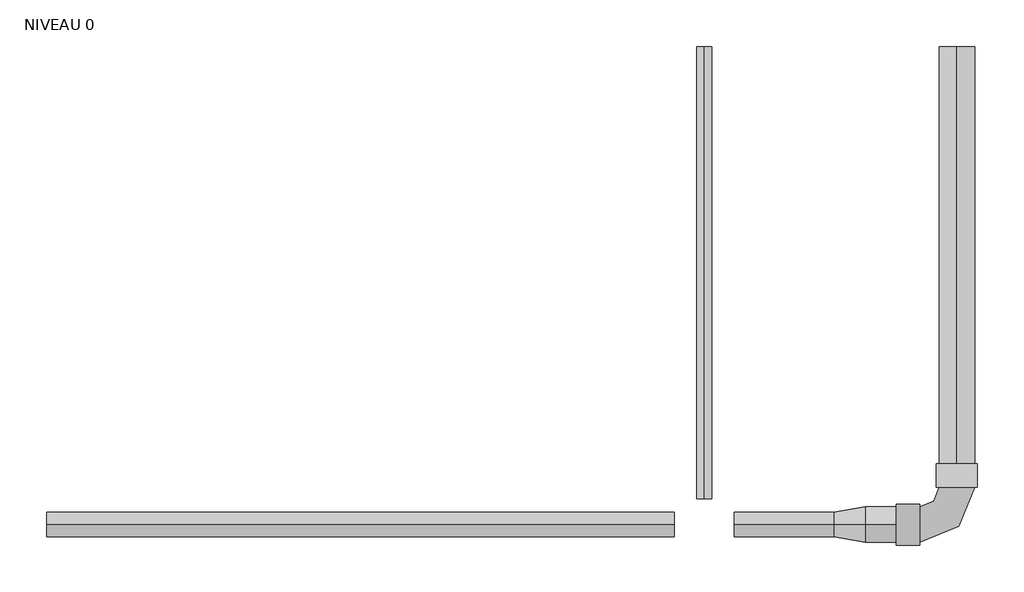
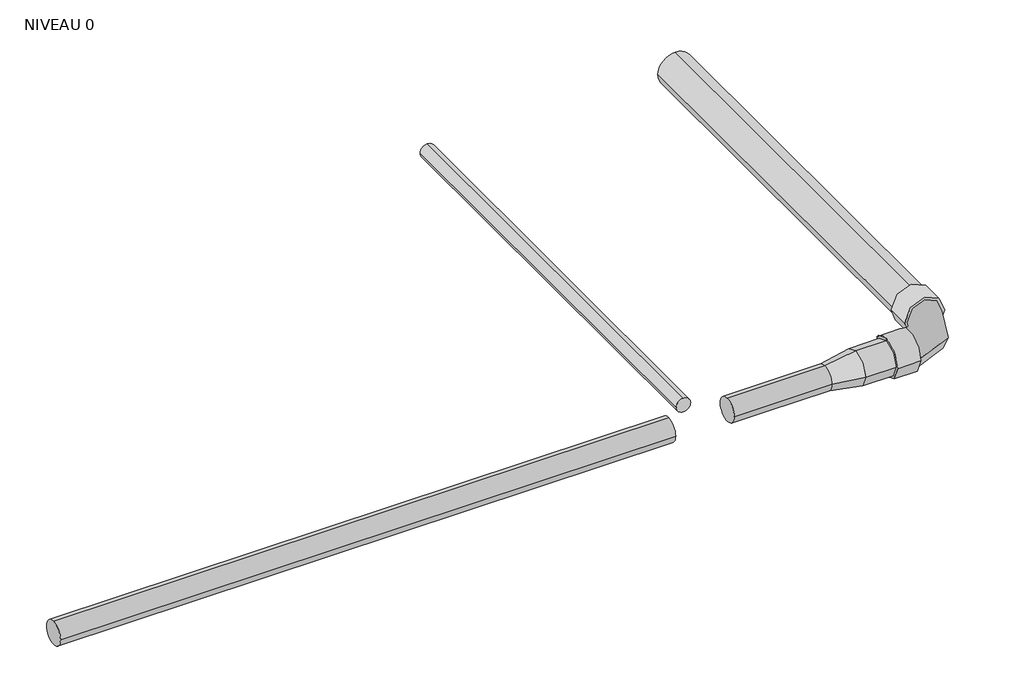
# One storey, incomplete: 5 pipe segments, 2 pipe fittings.
"""IFC4 building model written with IfcOpenShell, lengths in millimetres."""

from ifc_helpers import new_model, si_unit, point, frame, frame_2d, origin, place, context, project, spatial, circle_curve, trimmed, segment, composite_curve, outline, extrude, transform, mapped, element, save
from components import pipe_fitting_a8782d3a, coude_acier_inox_8707cc99

model = new_model("IFC4")

# Units and contexts
model_context = context("Model", 3, world=origin())
ifc_project = project(units=[si_unit("LENGTHUNIT", "METRE", prefix="MILLI")], contexts=[model_context])

# Site, building, storey
site = spatial("IfcSite", under=ifc_project)
building = spatial("IfcBuilding", under=site)
storey = spatial("IfcBuildingStorey", under=building, Name="NIVEAU 0", Elevation=0.0)

# Pipe fittings
placement = place(None, origin())
pipe_fitting_shape = pipe_fitting_a8782d3a(model_context)
element("IfcPipeFitting", 1, ObjectType="Réduction Acier Inox : Longueur = x3 EN ISO 1127", at=placement, inside=storey, context=model_context, shape_type="MappedRepresentation", body=[
    mapped(pipe_fitting_shape, transform((3101.8746052, 2100.9489051, 150.0), x_axis=(1.0, 0.0, 0.0), y_axis=(0.0, 1.0, 0.0), z_axis=(0.0, 0.0, 1.0))),
])
coude_acier_inox_shape = coude_acier_inox_8707cc99(model_context)
element("IfcPipeFitting", 2, ObjectType="Coude Acier Inox : Norme EN ISO 1127 Courbure = 3D", at=placement, inside=storey, context=model_context, shape_type="MappedRepresentation", body=[
    mapped(coude_acier_inox_shape, transform((3150.9132599, 2100.9489051, 150.0), x_axis=(1.0, 0.0, 0.0), y_axis=(0.0, 1.0, 0.0), z_axis=(0.0, 0.0, 1.0))),
])

# Pipe segments
element("IfcPipeSegment", 3, ObjectType="Acier Inox Norme EN ISO 1127", at=placement, inside=storey, context=model_context, shape_type="SweptSolid", body=[
    extrude(outline(composite_curve([segment(trimmed(circle_curve(frame_2d((2100.9489051, 150.0)), 21.2), [point((2079.7489051, 150.0))], [point((2100.9489051, 171.2))], False, "CARTESIAN"), True, "CONTINUOUS"), segment(trimmed(circle_curve(frame_2d((2100.9489051, 150.0)), 21.2), [point((2100.9489051, 171.2))], [point((2122.1489051, 150.0))], False, "CARTESIAN"), True, "CONTINUOUS"), segment(trimmed(circle_curve(frame_2d((2100.9489051, 150.0)), 21.2), [point((2122.1489051, 150.0))], [point((2100.9489051, 128.8))], False, "CARTESIAN"), True, "CONTINUOUS"), segment(trimmed(circle_curve(frame_2d((2100.9489051, 150.0)), 21.2), [point((2100.9489051, 128.8))], [point((2079.7489051, 150.0))], False, "CARTESIAN"), True, "CONTINUOUS")], self_intersect=False)), frame((2901.8746052, 0.0, 0.0), z_axis=(1.0, 0.0, 0.0), x_axis=(0.0, 1.0, 0.0)), (0.0, 0.0, 1.0), 169.5),
])
element("IfcPipeSegment", 4, ObjectType="Acier Inox Norme EN ISO 1127", at=placement, inside=storey, context=model_context, shape_type="SweptSolid", body=[
    extrude(outline(composite_curve([segment(trimmed(circle_curve(frame_2d((150.0, 2850.6746052)), 12.7), [point((150.0, 2863.3746052))], [point((162.7, 2850.6746052))], False, "CARTESIAN"), True, "CONTINUOUS"), segment(trimmed(circle_curve(frame_2d((150.0, 2850.6746052)), 12.7), [point((162.7, 2850.6746052))], [point((150.0, 2837.9746052))], False, "CARTESIAN"), True, "CONTINUOUS"), segment(trimmed(circle_curve(frame_2d((150.0, 2850.6746052)), 12.7), [point((150.0, 2837.9746052))], [point((137.3, 2850.6746052))], False, "CARTESIAN"), True, "CONTINUOUS"), segment(trimmed(circle_curve(frame_2d((150.0, 2850.6746052)), 12.7), [point((137.3, 2850.6746052))], [point((150.0, 2863.3746052))], False, "CARTESIAN"), True, "CONTINUOUS")], self_intersect=False)), frame((0.0, 2144.9489051, 0.0), z_axis=(0.0, 1.0, 0.0), x_axis=(0.0, 0.0, 1.0)), (0.0, 0.0, 1.0), 770.9966993),
])
element("IfcPipeSegment", 5, ObjectType="Acier Inox Norme EN ISO 1127", at=placement, inside=storey, context=model_context, shape_type="SweptSolid", body=[
    extrude(outline(composite_curve([segment(trimmed(circle_curve(frame_2d((2100.9489051, 150.0)), 21.2), [point((2079.7489051, 150.0))], [point((2100.9489051, 171.2))], False, "CARTESIAN"), True, "CONTINUOUS"), segment(trimmed(circle_curve(frame_2d((2100.9489051, 150.0)), 21.2), [point((2100.9489051, 171.2))], [point((2122.1489051, 150.0))], False, "CARTESIAN"), True, "CONTINUOUS"), segment(trimmed(circle_curve(frame_2d((2100.9489051, 150.0)), 21.2), [point((2122.1489051, 150.0))], [point((2100.9489051, 128.8))], False, "CARTESIAN"), True, "CONTINUOUS"), segment(trimmed(circle_curve(frame_2d((2100.9489051, 150.0)), 21.2), [point((2100.9489051, 128.8))], [point((2079.7489051, 150.0))], False, "CARTESIAN"), True, "CONTINUOUS")], self_intersect=False)), frame((1729.5620438, 0.0, 0.0), z_axis=(1.0, 0.0, 0.0), x_axis=(0.0, 1.0, 0.0)), (0.0, 0.0, 1.0), 1069.9125614),
])
element("IfcPipeSegment", 6, ObjectType="Acier Inox Norme EN ISO 1127", at=placement, inside=storey, context=model_context, shape_type="SweptSolid", body=[
    extrude(outline(composite_curve([segment(trimmed(circle_curve(frame_2d((2100.9489051, 150.0)), 30.15), [point((2070.7989051, 150.0))], [point((2100.9489051, 180.15))], False, "CARTESIAN"), True, "CONTINUOUS"), segment(trimmed(circle_curve(frame_2d((2100.9489051, 150.0)), 30.15), [point((2100.9489051, 180.15))], [point((2131.0989051, 150.0))], False, "CARTESIAN"), True, "CONTINUOUS"), segment(trimmed(circle_curve(frame_2d((2100.9489051, 150.0)), 30.15), [point((2131.0989051, 150.0))], [point((2100.9489051, 119.85))], False, "CARTESIAN"), True, "CONTINUOUS"), segment(trimmed(circle_curve(frame_2d((2100.9489051, 150.0)), 30.15), [point((2100.9489051, 119.85))], [point((2070.7989051, 150.0))], False, "CARTESIAN"), True, "CONTINUOUS")], self_intersect=False)), frame((3125.3746052, 0.0, 0.0), z_axis=(1.0, 0.0, 0.0), x_axis=(0.0, 1.0, 0.0)), (0.0, 0.0, 1.0), 52.8603897),
])
element("IfcPipeSegment", 7, ObjectType="Acier Inox Norme EN ISO 1127", at=placement, inside=storey, context=model_context, shape_type="SweptSolid", body=[
    extrude(outline(composite_curve([segment(trimmed(circle_curve(frame_2d((150.0, 3281.8746052)), 30.15), [point((150.0, 3312.0246052))], [point((180.15, 3281.8746052))], False, "CARTESIAN"), True, "CONTINUOUS"), segment(trimmed(circle_curve(frame_2d((150.0, 3281.8746052)), 30.15), [point((180.15, 3281.8746052))], [point((150.0, 3251.7246052))], False, "CARTESIAN"), True, "CONTINUOUS"), segment(trimmed(circle_curve(frame_2d((150.0, 3281.8746052)), 30.15), [point((150.0, 3251.7246052))], [point((119.85, 3281.8746052))], False, "CARTESIAN"), True, "CONTINUOUS"), segment(trimmed(circle_curve(frame_2d((150.0, 3281.8746052)), 30.15), [point((119.85, 3281.8746052))], [point((150.0, 3312.0246052))], False, "CARTESIAN"), True, "CONTINUOUS")], self_intersect=False)), frame((0.0, 2204.5885154, 0.0), z_axis=(0.0, 1.0, 0.0), x_axis=(0.0, 0.0, 1.0)), (0.0, 0.0, 1.0), 711.357089),
])

save(model, "model.ifc")
